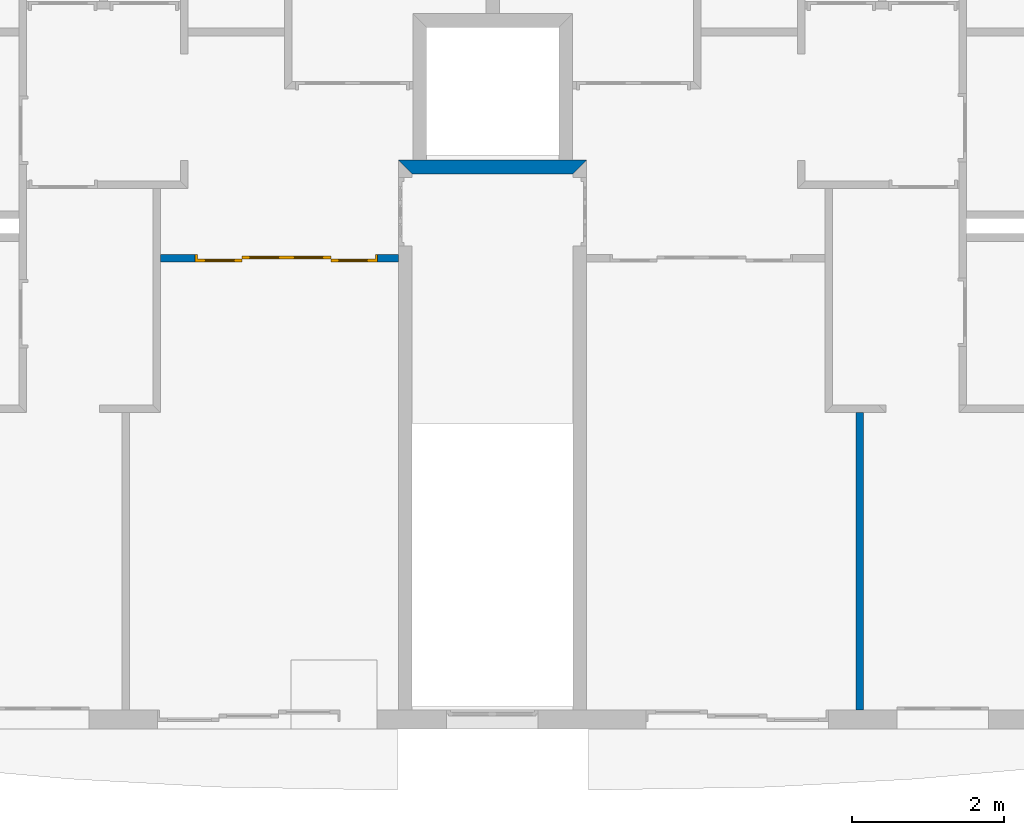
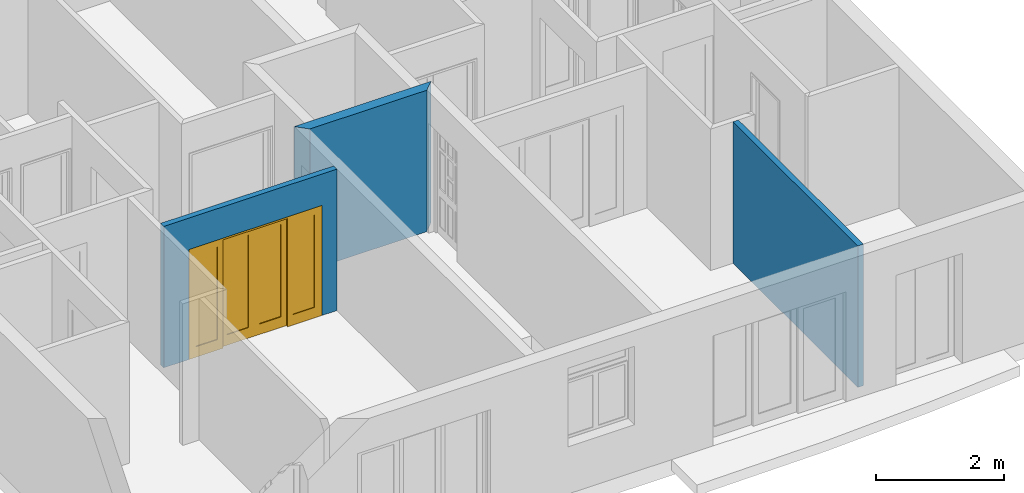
# One storey, part 6 of 12: 3 walls, 1 door, 1 opening.
"""IFC2X3 building model written with IfcOpenShell, lengths in metres."""

from ifc_helpers import new_model, entity, si_unit, converted_unit, direction, frame, frame_2d, origin_with_axes, place, context, project, spatial, polyline, rectangle, outline, extrude, faceted_brep, source, transform, mapped, material, layer, layer_set, layer_usage, type_object, element, fill, save


model = new_model("IFC2X3")

# Units and contexts
context_of_model = context(None, 3, precision=1e-05, world=origin_with_axes(), true_north=direction((6.123234e-17, 1.0)))
plan_context = context("Plan", 3, precision=1e-05, world=origin_with_axes(), true_north=direction((6.123234e-17, 1.0)))
model_context = context("Model", 3, precision=1e-05, world=origin_with_axes(), true_north=direction((6.123234e-17, 1.0)))
ifc_project = project(units=[si_unit("LENGTHUNIT", "METRE"), si_unit("AREAUNIT", "SQUARE_METRE"), si_unit("VOLUMEUNIT", "CUBIC_METRE"), converted_unit("PLANEANGLEUNIT", "DEGREE", entity("IfcPlaneAngleMeasure", 0.017453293), si_unit("PLANEANGLEUNIT", "RADIAN"), dimensions=[0, 0, 0, 0, 0, 0, 0]), si_unit("SOLIDANGLEUNIT", "STERADIAN"), si_unit("MASSUNIT", "GRAM"), si_unit("TIMEUNIT", "SECOND"), si_unit("THERMODYNAMICTEMPERATUREUNIT", "DEGREE_CELSIUS"), si_unit("LUMINOUSINTENSITYUNIT", "LUMEN")], contexts=[context_of_model, plan_context, model_context])

# Site, building, storey
site_placement = place(None, origin_with_axes())
site = spatial("IfcSite", under=ifc_project, at=site_placement, Name="Por defecto Sitio", CompositionType="ELEMENT")
building_placement = place(site_placement, origin_with_axes())
building = spatial("IfcBuilding", under=site, at=building_placement, Name="Por defecto Edificio", CompositionType="ELEMENT")
storey_placement = place(building_placement, frame((0.0, 0.0, 4.2), z_axis=(0.0, 0.0, 1.0), x_axis=(1.0, 0.0, 0.0)))
storey = spatial("IfcBuildingStorey", under=building, at=storey_placement, Name="Primera", CompositionType="ELEMENT", Elevation=4.2)

# Walls
ifc_material = material(Name="Ladrillo común")
ifc_layer_1 = layer(ifc_material, 0.18, ventilated="UNKNOWN")
ifc_layer_set_1 = layer_set([ifc_layer_1], Name="Ladrillo común")
ifc_layer_usage_1 = layer_usage(ifc_layer_set_1, "AXIS2", "POSITIVE", 0.0)
wall_type_1 = type_object("IfcWallType", Name="Ladrillo común", PredefinedType="NOTDEFINED")
wall_1_placement = place(storey_placement, frame((6.9566603, 7.2976562, 0.0), z_axis=(0.0, 0.0, 1.0), x_axis=(1.0, 0.0, 0.0)))
element("IfcWallStandardCase", 1, at=wall_1_placement, inside=storey, type_object=wall_type_1, material=ifc_layer_usage_1, Name="Muro-009", context=context_of_model, shape_type="SweptSolid", body=[
    extrude(outline(polyline([(0.0, 0.0), (2.1125095, 0.0), (2.2925095, 0.18), (-0.18, 0.18), (0.0, 0.0)])), origin_with_axes(), (0.0, 0.0, 1.0), 2.7),
])
ifc_layer_2 = layer(ifc_material, 0.1, ventilated="UNKNOWN")
ifc_layer_set_2 = layer_set([ifc_layer_2], Name="Ladrillo común")
ifc_layer_usage_2 = layer_usage(ifc_layer_set_2, "AXIS2", "NEGATIVE", 0.0)
wall_type_2 = type_object("IfcWallType", Name="Ladrillo común", PredefinedType="NOTDEFINED")
wall_2_placement = place(storey_placement, frame((12.784859, -1.1368684e-13, 0.0), z_axis=(0.0, 0.0, 1.0), x_axis=(0.0, 1.0, 0.0)))
element("IfcWallStandardCase", 2, at=wall_2_placement, inside=storey, type_object=wall_type_2, material=ifc_layer_usage_2, Name="Muro-019", context=context_of_model, shape_type="SweptSolid", body=[
    extrude(outline(polyline([(0.25, -0.1), (4.1588613, -0.1), (4.1588613, 0.0), (0.25, 0.0), (0.25, -0.1)])), origin_with_axes(), (0.0, 0.0, 1.0), 2.7),
])

# Wall, opening, door
ifc_layer_usage_3 = layer_usage(ifc_layer_set_2, "AXIS2", "NEGATIVE", 0.05)
wall_3_placement = place(storey_placement, frame((6.9566603, 6.1881579, 0.0), z_axis=(0.0, 0.0, 1.0), x_axis=(-1.0, 0.0, 0.0)))
wall_3 = element("IfcWallStandardCase", 3, at=wall_3_placement, inside=storey, type_object=wall_type_2, material=ifc_layer_usage_3, Name="Muro-028", context=context_of_model, shape_type="SweptSolid", body=[
    extrude(outline(polyline([(0.18, -0.05), (3.3064951, -0.05), (3.3064951, 0.05), (0.18, 0.05), (0.18, -0.05)])), origin_with_axes(), (0.0, 0.0, 1.0), 2.7),
])
opening_placement = place(wall_3_placement, frame((1.6532475, -0.05, 0.0), z_axis=(0.0, 0.0, 1.0), x_axis=(1.0, 0.0, 0.0)))
opening = element("IfcOpeningElement", 4, at=opening_placement, cuts=wall_3, ObjectType="Opening", context=model_context, shape_type="SweptSolid", body=[
    extrude(rectangle(XDim=2.4, YDim=2.1, at=frame_2d((0.0, 1.05), x_axis=(-1.0, 0.0))), frame((0.0, 0.0, 0.0), z_axis=(0.0, 1.0, 0.0), x_axis=(-1.0, 0.0, 0.0)), (0.0, 0.0, 1.0), 0.1),
])
door_style = type_object("IfcDoorStyle", Name="P4 Corredera 12", ConstructionType="NOTDEFINED", OperationType="DOUBLE_DOOR_SLIDING", ParameterTakesPrecedence=False, Sizeable=False)
shared_shape = source(origin_with_axes(), model_context, "Body", "Brep", [
    faceted_brep([(2.368, 0.1, 0.0), (2.368, -8.8817842e-16, 0.0), (2.368, 0.0, 2.068), (2.368, 0.1, 2.068), (2.4, 0.1, 0.0), (2.4, -8.8817842e-16, 0.0), (2.4, 0.0, 2.068), (2.4, 0.1, 2.068)], [[[0, 1, 2, 3]], [[4, 5, 1, 0]], [[1, 5, 6, 2]], [[3, 2, 6, 7]], [[0, 3, 7, 4]], [[7, 6, 5, 4]]]),
    faceted_brep([(0.0, 0.1, 0.0), (0.0, 0.0, 0.0), (0.0, 0.0, 2.068), (0.0, 0.1, 2.068), (0.032, 0.1, 0.0), (0.032, 0.0, 0.0), (0.032, 0.0, 2.068), (0.032, 0.1, 2.068)], [[[0, 1, 2, 3]], [[4, 5, 1, 0]], [[1, 5, 6, 2]], [[3, 2, 6, 7]], [[0, 3, 7, 4]], [[7, 6, 5, 4]]]),
    faceted_brep([(2.4, 0.1, 2.1), (2.4, 0.0, 2.1), (2.4, 0.0, 2.068), (2.4, 0.1, 2.068), (0.0, 0.1, 2.1), (0.0, 0.0, 2.1), (0.0, 0.0, 2.068), (0.032, 0.0, 2.068), (2.368, 0.0, 2.068), (2.368, 0.1, 2.068), (0.032, 0.1, 2.068), (0.0, 0.1, 2.068)], [[[0, 1, 2, 3]], [[4, 5, 1, 0]], [[1, 5, 6, 7, 8, 2]], [[3, 2, 8, 9]], [[0, 3, 9, 10, 11, 4]], [[11, 6, 5, 4]], [[10, 7, 6, 11]], [[9, 8, 7, 10]]]),
    faceted_brep([(0.032, 0.1, 0.2), (0.132, 0.1, 0.2), (0.132, 0.06, 0.2), (0.032, 0.06, 0.2), (0.032, 0.1, 1.968), (0.132, 0.1, 1.968), (0.132, 0.06, 1.968), (0.032, 0.06, 1.968)], [[[0, 1, 2, 3]], [[0, 4, 5, 1]], [[1, 5, 6, 2]], [[3, 2, 6, 7]], [[4, 0, 3, 7]], [[5, 4, 7, 6]]]),
    faceted_brep([(0.616, 0.1, 0.2), (0.616, 0.1, 1.968), (0.616, 0.06, 1.968), (0.616, 0.06, 0.2), (0.516, 0.1, 0.2), (0.516, 0.1, 1.968), (0.516, 0.06, 1.968), (0.516, 0.06, 0.2)], [[[0, 1, 2, 3]], [[0, 4, 5, 1]], [[1, 5, 6, 2]], [[3, 2, 6, 7]], [[4, 0, 3, 7]], [[5, 4, 7, 6]]]),
    faceted_brep([(0.032, 0.1, 0.0), (0.616, 0.1, 0.0), (0.616, 0.06, 0.0), (0.032, 0.06, 0.0), (0.032, 0.1, 0.2), (0.132, 0.1, 0.2), (0.516, 0.1, 0.2), (0.616, 0.1, 0.2), (0.616, 0.06, 0.2), (0.516, 0.06, 0.2), (0.132, 0.06, 0.2), (0.032, 0.06, 0.2)], [[[0, 1, 2, 3]], [[0, 4, 5, 6, 7, 1]], [[1, 7, 8, 2]], [[3, 2, 8, 9, 10, 11]], [[4, 0, 3, 11]], [[5, 4, 11, 10]], [[6, 5, 10, 9]], [[7, 6, 9, 8]]]),
    faceted_brep([(0.032, 0.1, 2.068), (0.032, 0.1, 1.968), (0.032, 0.06, 1.968), (0.032, 0.06, 2.068), (0.616, 0.1, 2.068), (0.616, 0.1, 1.968), (0.516, 0.1, 1.968), (0.132, 0.1, 1.968), (0.132, 0.06, 1.968), (0.516, 0.06, 1.968), (0.616, 0.06, 1.968), (0.616, 0.06, 2.068)], [[[0, 1, 2, 3]], [[0, 4, 5, 6, 7, 1]], [[1, 7, 8, 2]], [[3, 2, 8, 9, 10, 11]], [[4, 0, 3, 11]], [[5, 4, 11, 10]], [[6, 5, 10, 9]], [[7, 6, 9, 8]]]),
    faceted_brep([(0.132, 0.086, 0.2), (0.516, 0.086, 0.2), (0.516, 0.074, 0.2), (0.132, 0.074, 0.2), (0.132, 0.086, 1.968), (0.516, 0.086, 1.968), (0.516, 0.074, 1.968), (0.132, 0.074, 1.968)], [[[0, 1, 2, 3]], [[0, 4, 5, 1]], [[1, 5, 6, 2]], [[3, 2, 6, 7]], [[4, 0, 3, 7]], [[5, 4, 7, 6]]]),
    faceted_brep([(2.368, 0.1, 0.2), (2.368, 0.06, 0.2), (2.268, 0.06, 0.2), (2.268, 0.1, 0.2), (2.368, 0.1, 1.968), (2.368, 0.06, 1.968), (2.268, 0.06, 1.968), (2.268, 0.1, 1.968)], [[[0, 1, 2, 3]], [[4, 5, 1, 0]], [[1, 5, 6, 2]], [[3, 2, 6, 7]], [[0, 3, 7, 4]], [[7, 6, 5, 4]]]),
    faceted_brep([(1.784, 0.1, 0.2), (1.784, 0.06, 0.2), (1.784, 0.06, 1.968), (1.784, 0.1, 1.968), (1.884, 0.1, 0.2), (1.884, 0.06, 0.2), (1.884, 0.06, 1.968), (1.884, 0.1, 1.968)], [[[0, 1, 2, 3]], [[4, 5, 1, 0]], [[1, 5, 6, 2]], [[3, 2, 6, 7]], [[0, 3, 7, 4]], [[7, 6, 5, 4]]]),
    faceted_brep([(2.368, 0.1, 0.0), (2.368, 0.06, 0.0), (1.784, 0.06, 0.0), (1.784, 0.1, 0.0), (2.368, 0.1, 0.2), (2.368, 0.06, 0.2), (2.268, 0.06, 0.2), (1.884, 0.06, 0.2), (1.784, 0.06, 0.2), (1.784, 0.1, 0.2), (1.884, 0.1, 0.2), (2.268, 0.1, 0.2)], [[[0, 1, 2, 3]], [[4, 5, 1, 0]], [[1, 5, 6, 7, 8, 2]], [[3, 2, 8, 9]], [[0, 3, 9, 10, 11, 4]], [[11, 6, 5, 4]], [[10, 7, 6, 11]], [[9, 8, 7, 10]]]),
    faceted_brep([(2.368, 0.1, 2.068), (2.368, 0.06, 2.068), (2.368, 0.06, 1.968), (2.368, 0.1, 1.968), (1.784, 0.1, 2.068), (1.784, 0.06, 2.068), (1.784, 0.06, 1.968), (1.884, 0.06, 1.968), (2.268, 0.06, 1.968), (2.268, 0.1, 1.968), (1.884, 0.1, 1.968), (1.784, 0.1, 1.968)], [[[0, 1, 2, 3]], [[4, 5, 1, 0]], [[1, 5, 6, 7, 8, 2]], [[3, 2, 8, 9]], [[0, 3, 9, 10, 11, 4]], [[11, 6, 5, 4]], [[10, 7, 6, 11]], [[9, 8, 7, 10]]]),
    faceted_brep([(2.268, 0.086, 0.2), (2.268, 0.074, 0.2), (1.884, 0.074, 0.2), (1.884, 0.086, 0.2), (2.268, 0.086, 1.968), (2.268, 0.074, 1.968), (1.884, 0.074, 1.968), (1.884, 0.086, 1.968)], [[[0, 1, 2, 3]], [[4, 5, 1, 0]], [[1, 5, 6, 2]], [[3, 2, 6, 7]], [[0, 3, 7, 4]], [[7, 6, 5, 4]]]),
    faceted_brep([(0.616, 0.06, 0.2), (0.716, 0.06, 0.2), (0.716, 0.02, 0.2), (0.616, 0.02, 0.2), (0.616, 0.06, 1.968), (0.716, 0.06, 1.968), (0.716, 0.02, 1.968), (0.616, 0.02, 1.968)], [[[0, 1, 2, 3]], [[0, 4, 5, 1]], [[1, 5, 6, 2]], [[3, 2, 6, 7]], [[4, 0, 3, 7]], [[5, 4, 7, 6]]]),
    faceted_brep([(1.2, 0.06, 0.2), (1.2, 0.06, 1.968), (1.2, 0.02, 1.968), (1.2, 0.02, 0.2), (1.1, 0.06, 0.2), (1.1, 0.06, 1.968), (1.1, 0.02, 1.968), (1.1, 0.02, 0.2)], [[[0, 1, 2, 3]], [[0, 4, 5, 1]], [[1, 5, 6, 2]], [[3, 2, 6, 7]], [[4, 0, 3, 7]], [[5, 4, 7, 6]]]),
    faceted_brep([(0.616, 0.06, 0.0), (1.2, 0.06, 0.0), (1.2, 0.02, 0.0), (0.616, 0.02, 0.0), (0.616, 0.06, 0.2), (0.716, 0.06, 0.2), (1.1, 0.06, 0.2), (1.2, 0.06, 0.2), (1.2, 0.02, 0.2), (1.1, 0.02, 0.2), (0.716, 0.02, 0.2), (0.616, 0.02, 0.2)], [[[0, 1, 2, 3]], [[0, 4, 5, 6, 7, 1]], [[1, 7, 8, 2]], [[3, 2, 8, 9, 10, 11]], [[4, 0, 3, 11]], [[5, 4, 11, 10]], [[6, 5, 10, 9]], [[7, 6, 9, 8]]]),
    faceted_brep([(0.616, 0.06, 2.068), (0.616, 0.06, 1.968), (0.616, 0.02, 1.968), (0.616, 0.02, 2.068), (1.2, 0.06, 2.068), (1.2, 0.06, 1.968), (1.1, 0.06, 1.968), (0.716, 0.06, 1.968), (0.716, 0.02, 1.968), (1.1, 0.02, 1.968), (1.2, 0.02, 1.968), (1.2, 0.02, 2.068)], [[[0, 1, 2, 3]], [[0, 4, 5, 6, 7, 1]], [[1, 7, 8, 2]], [[3, 2, 8, 9, 10, 11]], [[4, 0, 3, 11]], [[5, 4, 11, 10]], [[6, 5, 10, 9]], [[7, 6, 9, 8]]]),
    faceted_brep([(0.716, 0.046, 0.2), (1.1, 0.046, 0.2), (1.1, 0.034, 0.2), (0.716, 0.034, 0.2), (0.716, 0.046, 1.968), (1.1, 0.046, 1.968), (1.1, 0.034, 1.968), (0.716, 0.034, 1.968)], [[[0, 1, 2, 3]], [[0, 4, 5, 1]], [[1, 5, 6, 2]], [[3, 2, 6, 7]], [[4, 0, 3, 7]], [[5, 4, 7, 6]]]),
    faceted_brep([(1.784, 0.06, 0.2), (1.784, 0.02, 0.2), (1.684, 0.02, 0.2), (1.684, 0.06, 0.2), (1.784, 0.06, 1.968), (1.784, 0.02, 1.968), (1.684, 0.02, 1.968), (1.684, 0.06, 1.968)], [[[0, 1, 2, 3]], [[4, 5, 1, 0]], [[1, 5, 6, 2]], [[3, 2, 6, 7]], [[0, 3, 7, 4]], [[7, 6, 5, 4]]]),
    faceted_brep([(1.2, 0.06, 0.2), (1.2, 0.02, 0.2), (1.2, 0.02, 1.968), (1.2, 0.06, 1.968), (1.3, 0.06, 0.2), (1.3, 0.02, 0.2), (1.3, 0.02, 1.968), (1.3, 0.06, 1.968)], [[[0, 1, 2, 3]], [[4, 5, 1, 0]], [[1, 5, 6, 2]], [[3, 2, 6, 7]], [[0, 3, 7, 4]], [[7, 6, 5, 4]]]),
    faceted_brep([(1.784, 0.06, 0.0), (1.784, 0.02, 0.0), (1.2, 0.02, 0.0), (1.2, 0.06, 0.0), (1.784, 0.06, 0.2), (1.784, 0.02, 0.2), (1.684, 0.02, 0.2), (1.3, 0.02, 0.2), (1.2, 0.02, 0.2), (1.2, 0.06, 0.2), (1.3, 0.06, 0.2), (1.684, 0.06, 0.2)], [[[0, 1, 2, 3]], [[4, 5, 1, 0]], [[1, 5, 6, 7, 8, 2]], [[3, 2, 8, 9]], [[0, 3, 9, 10, 11, 4]], [[11, 6, 5, 4]], [[10, 7, 6, 11]], [[9, 8, 7, 10]]]),
    faceted_brep([(1.784, 0.06, 2.068), (1.784, 0.02, 2.068), (1.784, 0.02, 1.968), (1.784, 0.06, 1.968), (1.2, 0.06, 2.068), (1.2, 0.02, 2.068), (1.2, 0.02, 1.968), (1.3, 0.02, 1.968), (1.684, 0.02, 1.968), (1.684, 0.06, 1.968), (1.3, 0.06, 1.968), (1.2, 0.06, 1.968)], [[[0, 1, 2, 3]], [[4, 5, 1, 0]], [[1, 5, 6, 7, 8, 2]], [[3, 2, 8, 9]], [[0, 3, 9, 10, 11, 4]], [[11, 6, 5, 4]], [[10, 7, 6, 11]], [[9, 8, 7, 10]]]),
    faceted_brep([(1.684, 0.046, 0.2), (1.684, 0.034, 0.2), (1.3, 0.034, 0.2), (1.3, 0.046, 0.2), (1.684, 0.046, 1.968), (1.684, 0.034, 1.968), (1.3, 0.034, 1.968), (1.3, 0.046, 1.968)], [[[0, 1, 2, 3]], [[4, 5, 1, 0]], [[1, 5, 6, 2]], [[3, 2, 6, 7]], [[0, 3, 7, 4]], [[7, 6, 5, 4]]]),
])
door_placement = place(opening_placement, frame((-1.2, 0.0, 0.0), z_axis=(0.0, 0.0, 1.0), x_axis=(1.0, 0.0, 0.0)))
door = element("IfcDoor", 5, at=door_placement, inside=storey, type_object=door_style, Name="P21", OverallHeight=2.1, OverallWidth=2.4, context=model_context, shape_type="MappedRepresentation", body=[
    mapped(shared_shape, transform((0.0, 0.0, 0.0), scale=1.0)),
])
fill(opening, door)

save(model, "model.ifc")
